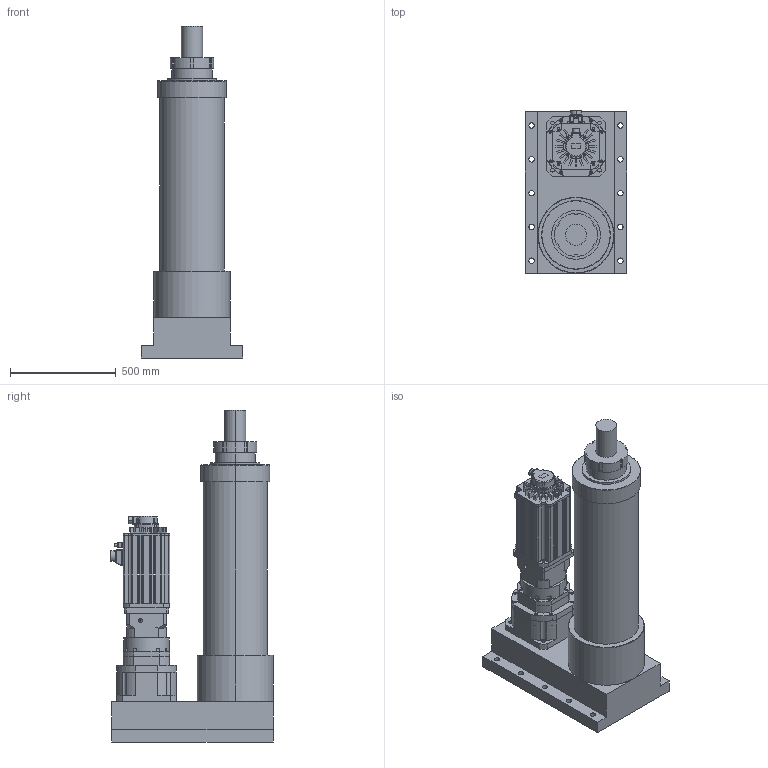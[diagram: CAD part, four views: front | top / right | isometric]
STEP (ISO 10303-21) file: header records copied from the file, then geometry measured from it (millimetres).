
FILE_DESCRIPTION (( 'STEP AP203' ), '1' );
FILE_NAME ('S12殏殿綴楊擘假蚾.STEP', '2024-08-16T07:04:40', ( '' ), ( '' ), 'SwSTEP 2.0', 'SolidWorks 2018', '' );
FILE_SCHEMA (( 'CONFIG_CONTROL_DESIGN' ));
Length unit declared in the file: millimetre
Products named in the file (4): ECMA-F1221BS3-220框號系列機種-11KW高慣量系列; S12殏殿綴楊擘假蚾; S12殏殿綴楊擘; PLX280-L3 42-200-235-M12
Assembly tree (3 placements, depth 2):
  S12殏殿綴楊擘假蚾
    S12殏殿綴楊擘
    PLX280-L3 42-200-235-M12
    ECMA-F1221BS3-220框號系列機種-11KW高慣量系列
Bounding box: 480 x 769.2 x 1571 mm (x, y, z)
Volume: 172025657.4 mm3; surface area: 4211466.4 mm2
Topology: 7 solids, 13 shells, 1199 faces, 3124 edges, 2011 vertices
Faces by surface type: cylinder 528, plane 495, cone 137, bspline 18, torus 13, sphere 8
Entity records: 40023 total; most frequent: CARTESIAN_POINT 9942, DIRECTION 6334, ORIENTED_EDGE 5880, EDGE_CURVE 3082, AXIS2_PLACEMENT_3D 2388, VERTEX_POINT 2011, VECTOR 1558, LINE 1558
